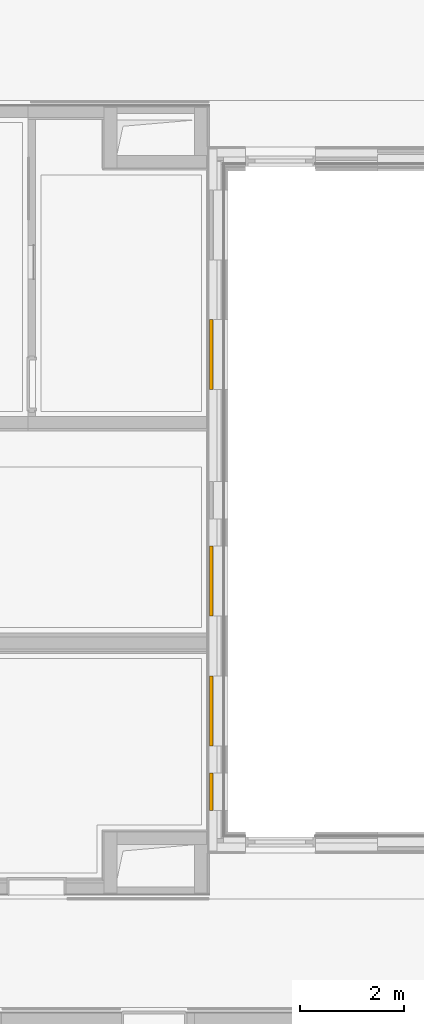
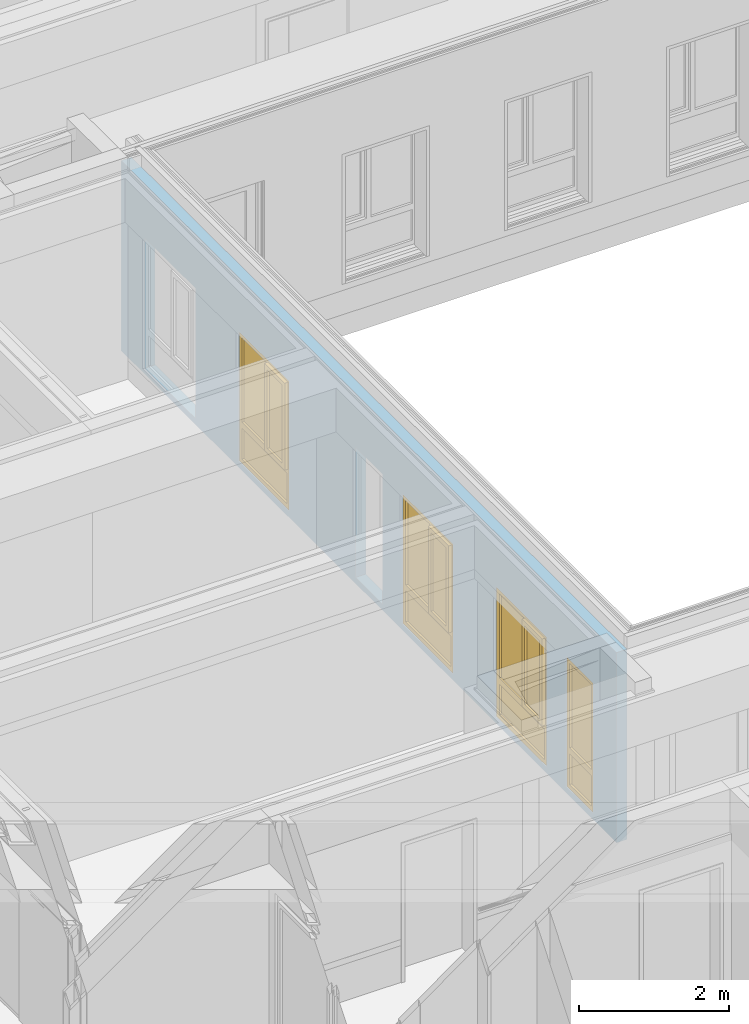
# One storey, part 129 of 207: 4 windows, 6 openings, plus 1 element that does not belong to this part.
"""IFC4 building model written with IfcOpenShell, lengths in metres."""

from ifc_helpers import new_model, entity, si_unit, converted_unit, derived_unit, frame, frame_2d, origin, origin_with_axes, place, context, subcontext, project, spatial, polyline, rectangle, outline, extrude, closed_shell, open_shell, surface_model, source, transform, mapped, material, element, fill, save


model = new_model("IFC4")

# Units and contexts
model_context = context("Model", 3, precision=1e-05, world=origin())
body_context = subcontext(model_context, "Body", "Model", "MODEL_VIEW")
ifc_project = project(units=[si_unit("LENGTHUNIT", "METRE"), si_unit("AREAUNIT", "SQUARE_METRE"), si_unit("VOLUMEUNIT", "CUBIC_METRE"), si_unit("MASSUNIT", "GRAM", prefix="KILO"), converted_unit("PLANEANGLEUNIT", "DEGREE", entity("IfcPlaneAngleMeasure", 0.0174532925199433), si_unit("PLANEANGLEUNIT", "RADIAN"), dimensions=[0, 0, 0, 0, 0, 0, 0]), derived_unit("THERMALTRANSMITTANCEUNIT", [(si_unit("POWERUNIT", "WATT"), 1), (si_unit("THERMODYNAMICTEMPERATUREUNIT", "KELVIN"), -1), (si_unit("LENGTHUNIT", "METRE"), -2)]), derived_unit("VOLUMETRICFLOWRATEUNIT", [(si_unit("LENGTHUNIT", "METRE"), 3), (converted_unit("TIMEUNIT", "hour", entity("IfcTimeMeasure", 3600.0), si_unit("TIMEUNIT", "SECOND"), dimensions=[0, 0, 1, 0, 0, 0, 0]), -1), (si_unit("LENGTHUNIT", "METRE"), -1)])], contexts=[model_context])

# Site, building, storey
site_placement = place(None, origin())
site = spatial("IfcSite", under=ifc_project, at=site_placement, Name="Psychiatrie Neubau Wunstorf", CompositionType="ELEMENT")
building_placement = place(site_placement, origin())
building = spatial("IfcBuilding", under=site, at=building_placement, Name="Neubau H2 Stationsgebäude", CompositionType="ELEMENT")
storey_placement = place(building_placement, frame((0.0, 0.0, -0.2)))
storey = spatial("IfcBuildingStorey", under=building, at=storey_placement, Name="H2 Ebene 0", CompositionType="ELEMENT", Elevation=-0.2)

# Wall, openings, windows
ifc_material = material(Name="WA-HD")
wall_placement = place(storey_placement, frame((79.175, 21.84, 0.5), z_axis=(0.0, 0.0, 1.0), x_axis=(0.0, -1.0, 0.0)))
wall = element("IfcWall", 1, at=wall_placement, inside=storey, material=ifc_material, context=body_context, shape_type="SweptSolid", body=[
    extrude(rectangle(XDim=13.23, YDim=0.16, at=frame_2d((6.615, 0.08), x_axis=(1.0, 0.0))), origin_with_axes(), (0.0, 0.0, 1.0), 3.1),
])
opening_1_placement = place(wall_placement, frame((12.6049999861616, 0.16, 0.1), z_axis=(0.0, -1.0, 0.0), x_axis=(0.0, 0.0, 1.0)))
opening_1 = element("IfcOpeningElement", 2, at=opening_1_placement, cuts=wall, Name="Fensteröffnung", ObjectType="Opening", context=body_context, shape_type="SweptSolid", body=[
    extrude(outline(polyline([(2.12, 0.725), (2.12, 0.0), (0.0, 0.0), (0.0, 0.725), (2.12, 0.725)])), origin_with_axes(), (0.0, 0.0, 1.0), 0.16),
])
opening_2_placement = place(wall_placement, frame((11.3565865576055, 0.16, 0.1), z_axis=(0.0, -1.0, 0.0), x_axis=(0.0, 0.0, 1.0)))
opening_2 = element("IfcOpeningElement", 3, at=opening_2_placement, cuts=wall, Name="Fensteröffnung", ObjectType="Opening", context=body_context, shape_type="SweptSolid", body=[
    extrude(outline(polyline([(2.12, 1.35), (2.12, 0.0), (0.0, 0.0), (0.0, 1.35), (2.12, 1.35)])), origin_with_axes(), (0.0, 0.0, 1.0), 0.16),
])
opening_3_placement = place(wall_placement, frame((8.85664410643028, 0.16, 0.1), z_axis=(0.0, -1.0, 0.0), x_axis=(0.0, 0.0, 1.0)))
opening_3 = element("IfcOpeningElement", 4, at=opening_3_placement, cuts=wall, Name="Fensteröffnung", ObjectType="Opening", context=body_context, shape_type="SweptSolid", body=[
    extrude(outline(polyline([(2.12, 1.35), (2.12, 0.0), (0.0, 0.0), (0.0, 1.35), (2.12, 1.35)])), origin_with_axes(), (0.0, 0.0, 1.0), 0.16),
])
opening_4_placement = place(wall_placement, frame((4.48200463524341, 0.160000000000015, 0.1), z_axis=(0.0, -1.0, 0.0), x_axis=(0.0, 0.0, 1.0)))
opening_4 = element("IfcOpeningElement", 5, at=opening_4_placement, cuts=wall, Name="Fensteröffnung", ObjectType="Opening", context=body_context, shape_type="SweptSolid", body=[
    extrude(outline(polyline([(2.12, 1.35), (2.12, 0.0), (0.0, 0.0), (0.0, 1.35), (2.12, 1.35)])), origin_with_axes(), (0.0, 0.0, 1.0), 0.16),
])
opening_5_placement = place(wall_placement, frame((1.98244477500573, 0.16, 0.1), z_axis=(0.0, -1.0, 0.0), x_axis=(0.0, 0.0, 1.0)))
element("IfcOpeningElement", 6, at=opening_5_placement, cuts=wall, Name="Fensteröffnung", ObjectType="Opening", context=body_context, shape_type="SweptSolid", body=[
    extrude(outline(polyline([(2.12, 1.35), (2.12, 0.0), (0.0, 0.0), (0.0, 1.35), (2.12, 1.35)])), origin_with_axes(), (0.0, 0.0, 1.0), 0.16),
])
opening_6_placement = place(wall_placement, frame((6.98238722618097, 0.16, 0.1), z_axis=(0.0, -1.0, 0.0), x_axis=(0.0, 0.0, 1.0)))
element("IfcOpeningElement", 7, at=opening_6_placement, cuts=wall, Name="Fensteröffnung", ObjectType="Opening", context=body_context, shape_type="SweptSolid", body=[
    extrude(outline(polyline([(2.12, 0.725), (2.12, 0.0), (0.0, 0.0), (0.0, 0.725), (2.12, 0.725)])), origin_with_axes(), (0.0, 0.0, 1.0), 0.16),
])
shared_shape_1 = source(origin_with_axes(), body_context, "Body", "SurfaceModel", [
    surface_model("IfcShellBasedSurfaceModel", [(0.0, 0.0, 2.12), (0.0699999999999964, 0.0, 2.12), (0.0699999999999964, 0.0, 0.0), (0.0, 0.0, 0.0), (0.0, 0.0700000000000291, 0.0), (0.0699999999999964, 0.0700000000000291, 0.0), (0.0699999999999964, 0.0700000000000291, 2.12), (0.0, 0.0700000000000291, 2.12)], [closed_shell([[[0, 1, 2, 3]], [[4, 5, 6, 7]], [[3, 4, 7, 0]], [[2, 5, 4, 3]], [[1, 6, 5, 2]], [[0, 7, 6, 1]]], orient=[[False], [False], [False], [False], [False], [False]])]),
    surface_model("IfcShellBasedSurfaceModel", [(0.654999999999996, 0.0, 2.12), (0.724999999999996, 0.0, 2.12), (0.724999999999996, 0.0, 0.0), (0.654999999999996, 0.0, 0.0), (0.654999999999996, 0.0700000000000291, 0.0), (0.724999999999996, 0.0700000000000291, 0.0), (0.724999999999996, 0.0700000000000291, 2.12), (0.654999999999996, 0.0700000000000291, 2.12)], [closed_shell([[[0, 1, 2, 3]], [[4, 5, 6, 7]], [[3, 4, 7, 0]], [[2, 5, 4, 3]], [[1, 6, 5, 2]], [[0, 7, 6, 1]]], orient=[[False], [False], [False], [False], [False], [False]])]),
    surface_model("IfcShellBasedSurfaceModel", [(0.0699999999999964, 0.0, 0.07), (0.654999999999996, 0.0, 0.07), (0.654999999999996, 0.0, 0.0), (0.0699999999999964, 0.0, 0.0), (0.0699999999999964, 0.0700000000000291, 0.0), (0.654999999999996, 0.0700000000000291, 0.0), (0.654999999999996, 0.0700000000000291, 0.07), (0.0699999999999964, 0.0700000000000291, 0.07)], [closed_shell([[[0, 1, 2, 3]], [[4, 5, 6, 7]], [[3, 4, 7, 0]], [[2, 5, 4, 3]], [[1, 6, 5, 2]], [[0, 7, 6, 1]]], orient=[[False], [False], [False], [False], [False], [False]])]),
    surface_model("IfcShellBasedSurfaceModel", [(0.0699999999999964, 0.0, 2.12), (0.654999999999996, 0.0, 2.12), (0.654999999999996, 0.0, 2.05), (0.0699999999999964, 0.0, 2.05), (0.0699999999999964, 0.0700000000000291, 2.05), (0.654999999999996, 0.0700000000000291, 2.05), (0.654999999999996, 0.0700000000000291, 2.12), (0.0699999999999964, 0.0700000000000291, 2.12)], [closed_shell([[[0, 1, 2, 3]], [[4, 5, 6, 7]], [[3, 4, 7, 0]], [[2, 5, 4, 3]], [[1, 6, 5, 2]], [[0, 7, 6, 1]]], orient=[[False], [False], [False], [False], [False], [False]])]),
    surface_model("IfcShellBasedSurfaceModel", [(0.0699999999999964, 0.0, 0.67), (0.654999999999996, 0.0, 0.67), (0.654999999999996, 0.0, 0.57), (0.0699999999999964, 0.0, 0.57), (0.0699999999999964, 0.0700000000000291, 0.57), (0.654999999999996, 0.0700000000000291, 0.57), (0.654999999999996, 0.0700000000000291, 0.67), (0.0699999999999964, 0.0700000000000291, 0.67)], [closed_shell([[[0, 1, 2, 3]], [[4, 5, 6, 7]], [[3, 4, 7, 0]], [[2, 5, 4, 3]], [[1, 6, 5, 2]], [[0, 7, 6, 1]]], orient=[[False], [False], [False], [False], [False], [False]])]),
    surface_model("IfcShellBasedSurfaceModel", [(0.0699999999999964, 0.0350000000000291, 0.07), (0.0699999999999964, 0.0350000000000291, 0.57), (0.654999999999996, 0.0350000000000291, 0.57), (0.654999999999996, 0.0350000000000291, 0.07)], [open_shell([[[0, 1, 2, 3]]], orient=[[False]])]),
    surface_model("IfcShellBasedSurfaceModel", [(0.0699999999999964, 0.0350000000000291, 0.67), (0.0699999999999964, 0.0350000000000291, 2.05), (0.654999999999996, 0.0350000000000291, 2.05), (0.654999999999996, 0.0350000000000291, 0.67)], [open_shell([[[0, 1, 2, 3]]], orient=[[False]])]),
])
window_1_placement = place(opening_1_placement, frame((0.0, 0.0, 0.076), z_axis=(1.0, 0.0, 0.0), x_axis=(0.0, 1.0, 0.0)))
window_1 = element("IfcWindow", 8, at=window_1_placement, inside=storey, Name="Fenster", OverallHeight=2.12, OverallWidth=0.725, PartitioningType="USERDEFINED", PredefinedType="WINDOW", context=body_context, shape_type="MappedRepresentation", body=[
    mapped(shared_shape_1, transform((0.0, 0.0, 0.0), x_axis=(1.0, 0.0, 0.0), y_axis=(0.0, 1.0, 0.0), z_axis=(0.0, 0.0, 1.0), scale=1.0)),
])
fill(opening_1, window_1)
shared_shape_2 = source(origin_with_axes(), body_context, "Body", "SurfaceModel", [
    surface_model("IfcShellBasedSurfaceModel", [(1.35, 0.0, 2.12), (1.35, 0.0, 0.0), (1.28, 0.0, 0.0), (1.28, 0.0, 2.12), (1.35, 0.0699999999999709, 0.0), (1.35, 0.0699999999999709, 2.12), (1.28, 0.0699999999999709, 2.12), (1.28, 0.0699999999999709, 0.0)], [closed_shell([[[0, 1, 2, 3]], [[4, 5, 6, 7]], [[1, 0, 5, 4]], [[2, 1, 4, 7]], [[3, 2, 7, 6]], [[0, 3, 6, 5]]], orient=[[False], [False], [False], [False], [False], [False]])]),
    surface_model("IfcShellBasedSurfaceModel", [(0.0700000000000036, 0.0, 2.12), (0.0700000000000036, 0.0, 0.0), (0.0, 0.0, 0.0), (0.0, 0.0, 2.12), (0.0700000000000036, 0.0699999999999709, 0.0), (0.0700000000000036, 0.0699999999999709, 2.12), (0.0, 0.0699999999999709, 2.12), (0.0, 0.0699999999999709, 0.0)], [closed_shell([[[0, 1, 2, 3]], [[4, 5, 6, 7]], [[1, 0, 5, 4]], [[2, 1, 4, 7]], [[3, 2, 7, 6]], [[0, 3, 6, 5]]], orient=[[False], [False], [False], [False], [False], [False]])]),
    surface_model("IfcShellBasedSurfaceModel", [(1.28, 0.0, 0.07), (1.28, 0.0, 0.0), (0.0700000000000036, 0.0, 0.0), (0.0700000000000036, 0.0, 0.07), (1.28, 0.0699999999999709, 0.0), (1.28, 0.0699999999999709, 0.07), (0.0700000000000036, 0.0699999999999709, 0.07), (0.0700000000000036, 0.0699999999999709, 0.0)], [closed_shell([[[0, 1, 2, 3]], [[4, 5, 6, 7]], [[1, 0, 5, 4]], [[2, 1, 4, 7]], [[3, 2, 7, 6]], [[0, 3, 6, 5]]], orient=[[False], [False], [False], [False], [False], [False]])]),
    surface_model("IfcShellBasedSurfaceModel", [(1.28, 0.0, 2.12), (1.28, 0.0, 2.05), (0.0700000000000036, 0.0, 2.05), (0.0700000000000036, 0.0, 2.12), (1.28, 0.0699999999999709, 2.05), (1.28, 0.0699999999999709, 2.12), (0.0700000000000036, 0.0699999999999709, 2.12), (0.0700000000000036, 0.0699999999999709, 2.05)], [closed_shell([[[0, 1, 2, 3]], [[4, 5, 6, 7]], [[1, 0, 5, 4]], [[2, 1, 4, 7]], [[3, 2, 7, 6]], [[0, 3, 6, 5]]], orient=[[False], [False], [False], [False], [False], [False]])]),
    surface_model("IfcShellBasedSurfaceModel", [(1.28, 0.0, 0.67), (1.28, 0.0, 0.57), (0.0700000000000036, 0.0, 0.57), (0.0700000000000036, 0.0, 0.67), (1.28, 0.0699999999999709, 0.57), (1.28, 0.0699999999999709, 0.67), (0.0700000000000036, 0.0699999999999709, 0.67), (0.0700000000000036, 0.0699999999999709, 0.57)], [closed_shell([[[0, 1, 2, 3]], [[4, 5, 6, 7]], [[1, 0, 5, 4]], [[2, 1, 4, 7]], [[3, 2, 7, 6]], [[0, 3, 6, 5]]], orient=[[False], [False], [False], [False], [False], [False]])]),
    surface_model("IfcShellBasedSurfaceModel", [(1.28, 0.0349999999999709, 0.07), (0.0700000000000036, 0.0349999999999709, 0.07), (0.0700000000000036, 0.0349999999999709, 0.57), (1.28, 0.0349999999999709, 0.57)], [open_shell([[[0, 1, 2, 3]]], orient=[[False]])]),
    surface_model("IfcShellBasedSurfaceModel", [(0.780000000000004, 0.0, 2.05), (0.780000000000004, 0.0, 0.67), (0.710000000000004, 0.0, 0.67), (0.710000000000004, 0.0, 2.05), (0.780000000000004, 0.0699999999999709, 0.67), (0.780000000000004, 0.0699999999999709, 2.05), (0.710000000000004, 0.0699999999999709, 2.05), (0.710000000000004, 0.0699999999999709, 0.67)], [closed_shell([[[0, 1, 2, 3]], [[4, 5, 6, 7]], [[1, 0, 5, 4]], [[2, 1, 4, 7]], [[3, 2, 7, 6]], [[0, 3, 6, 5]]], orient=[[False], [False], [False], [False], [False], [False]])]),
    surface_model("IfcShellBasedSurfaceModel", [(1.3, -0.0500000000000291, 2.07), (1.3, -0.0500000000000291, 0.65), (1.23, -0.0500000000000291, 0.65), (1.23, -0.0500000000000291, 2.07), (1.3, 0.0199999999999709, 0.65), (1.3, 0.0199999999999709, 2.07), (1.23, 0.0199999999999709, 2.07), (1.23, 0.0199999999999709, 0.65)], [closed_shell([[[0, 1, 2, 3]], [[4, 5, 6, 7]], [[1, 0, 5, 4]], [[2, 1, 4, 7]], [[3, 2, 7, 6]], [[0, 3, 6, 5]]], orient=[[False], [False], [False], [False], [False], [False]])]),
    surface_model("IfcShellBasedSurfaceModel", [(0.830000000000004, -0.0500000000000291, 2.07), (0.830000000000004, -0.0500000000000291, 0.65), (0.760000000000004, -0.0500000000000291, 0.65), (0.760000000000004, -0.0500000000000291, 2.07), (0.830000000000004, 0.0199999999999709, 0.65), (0.830000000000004, 0.0199999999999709, 2.07), (0.760000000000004, 0.0199999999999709, 2.07), (0.760000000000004, 0.0199999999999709, 0.65)], [closed_shell([[[0, 1, 2, 3]], [[4, 5, 6, 7]], [[1, 0, 5, 4]], [[2, 1, 4, 7]], [[3, 2, 7, 6]], [[0, 3, 6, 5]]], orient=[[False], [False], [False], [False], [False], [False]])]),
    surface_model("IfcShellBasedSurfaceModel", [(1.23, -0.0500000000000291, 0.72), (1.23, -0.0500000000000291, 0.65), (0.830000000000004, -0.0500000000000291, 0.65), (0.830000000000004, -0.0500000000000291, 0.72), (1.23, 0.0199999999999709, 0.65), (1.23, 0.0199999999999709, 0.72), (0.830000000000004, 0.0199999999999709, 0.72), (0.830000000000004, 0.0199999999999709, 0.65)], [closed_shell([[[0, 1, 2, 3]], [[4, 5, 6, 7]], [[1, 0, 5, 4]], [[2, 1, 4, 7]], [[3, 2, 7, 6]], [[0, 3, 6, 5]]], orient=[[False], [False], [False], [False], [False], [False]])]),
    surface_model("IfcShellBasedSurfaceModel", [(1.23, -0.0500000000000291, 2.07), (1.23, -0.0500000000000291, 2.0), (0.830000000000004, -0.0500000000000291, 2.0), (0.830000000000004, -0.0500000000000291, 2.07), (1.23, 0.0199999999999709, 2.0), (1.23, 0.0199999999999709, 2.07), (0.830000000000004, 0.0199999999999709, 2.07), (0.830000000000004, 0.0199999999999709, 2.0)], [closed_shell([[[0, 1, 2, 3]], [[4, 5, 6, 7]], [[1, 0, 5, 4]], [[2, 1, 4, 7]], [[3, 2, 7, 6]], [[0, 3, 6, 5]]], orient=[[False], [False], [False], [False], [False], [False]])]),
    surface_model("IfcShellBasedSurfaceModel", [(0.710000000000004, 0.0349999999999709, 0.67), (0.0700000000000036, 0.0349999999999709, 0.67), (0.0700000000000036, 0.0349999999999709, 2.05), (0.710000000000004, 0.0349999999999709, 2.05)], [open_shell([[[0, 1, 2, 3]]], orient=[[False]])]),
    surface_model("IfcShellBasedSurfaceModel", [(1.23, -0.0150000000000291, 0.72), (0.830000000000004, -0.0150000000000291, 0.72), (0.830000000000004, -0.0150000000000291, 2.0), (1.23, -0.0150000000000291, 2.0)], [open_shell([[[0, 1, 2, 3]]], orient=[[False]])]),
])
window_2_placement = place(opening_2_placement, frame((0.0, 1.35, 0.146), z_axis=(1.0, 0.0, 0.0), x_axis=(0.0, -1.0, 0.0)))
window_2 = element("IfcWindow", 9, at=window_2_placement, inside=storey, Name="Fenster", OverallHeight=2.12, OverallWidth=1.35, PartitioningType="USERDEFINED", PredefinedType="WINDOW", context=body_context, shape_type="MappedRepresentation", body=[
    mapped(shared_shape_2, transform((0.0, 0.0, 0.0), x_axis=(1.0, 0.0, 0.0), y_axis=(0.0, 1.0, 0.0), z_axis=(0.0, 0.0, 1.0), scale=1.0)),
])
fill(opening_2, window_2)
shared_shape_3 = source(origin_with_axes(), body_context, "Body", "SurfaceModel", [
    surface_model("IfcShellBasedSurfaceModel", [(1.35, 0.0, 2.12), (1.35, 0.0, 0.0), (1.28, 0.0, 0.0), (1.28, 0.0, 2.12), (1.35, 0.0699999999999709, 0.0), (1.35, 0.0699999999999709, 2.12), (1.28, 0.0699999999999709, 2.12), (1.28, 0.0699999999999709, 0.0)], [closed_shell([[[0, 1, 2, 3]], [[4, 5, 6, 7]], [[1, 0, 5, 4]], [[2, 1, 4, 7]], [[3, 2, 7, 6]], [[0, 3, 6, 5]]], orient=[[False], [False], [False], [False], [False], [False]])]),
    surface_model("IfcShellBasedSurfaceModel", [(0.0700000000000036, 0.0, 2.12), (0.0700000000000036, 0.0, 0.0), (0.0, 0.0, 0.0), (0.0, 0.0, 2.12), (0.0700000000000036, 0.0699999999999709, 0.0), (0.0700000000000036, 0.0699999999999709, 2.12), (0.0, 0.0699999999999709, 2.12), (0.0, 0.0699999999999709, 0.0)], [closed_shell([[[0, 1, 2, 3]], [[4, 5, 6, 7]], [[1, 0, 5, 4]], [[2, 1, 4, 7]], [[3, 2, 7, 6]], [[0, 3, 6, 5]]], orient=[[False], [False], [False], [False], [False], [False]])]),
    surface_model("IfcShellBasedSurfaceModel", [(1.28, 0.0, 0.07), (1.28, 0.0, 0.0), (0.0700000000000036, 0.0, 0.0), (0.0700000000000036, 0.0, 0.07), (1.28, 0.0699999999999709, 0.0), (1.28, 0.0699999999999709, 0.07), (0.0700000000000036, 0.0699999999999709, 0.07), (0.0700000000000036, 0.0699999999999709, 0.0)], [closed_shell([[[0, 1, 2, 3]], [[4, 5, 6, 7]], [[1, 0, 5, 4]], [[2, 1, 4, 7]], [[3, 2, 7, 6]], [[0, 3, 6, 5]]], orient=[[False], [False], [False], [False], [False], [False]])]),
    surface_model("IfcShellBasedSurfaceModel", [(1.28, 0.0, 2.12), (1.28, 0.0, 2.05), (0.0700000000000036, 0.0, 2.05), (0.0700000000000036, 0.0, 2.12), (1.28, 0.0699999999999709, 2.05), (1.28, 0.0699999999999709, 2.12), (0.0700000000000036, 0.0699999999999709, 2.12), (0.0700000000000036, 0.0699999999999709, 2.05)], [closed_shell([[[0, 1, 2, 3]], [[4, 5, 6, 7]], [[1, 0, 5, 4]], [[2, 1, 4, 7]], [[3, 2, 7, 6]], [[0, 3, 6, 5]]], orient=[[False], [False], [False], [False], [False], [False]])]),
    surface_model("IfcShellBasedSurfaceModel", [(1.28, 0.0, 0.67), (1.28, 0.0, 0.57), (0.0700000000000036, 0.0, 0.57), (0.0700000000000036, 0.0, 0.67), (1.28, 0.0699999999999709, 0.57), (1.28, 0.0699999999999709, 0.67), (0.0700000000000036, 0.0699999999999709, 0.67), (0.0700000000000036, 0.0699999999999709, 0.57)], [closed_shell([[[0, 1, 2, 3]], [[4, 5, 6, 7]], [[1, 0, 5, 4]], [[2, 1, 4, 7]], [[3, 2, 7, 6]], [[0, 3, 6, 5]]], orient=[[False], [False], [False], [False], [False], [False]])]),
    surface_model("IfcShellBasedSurfaceModel", [(1.28, 0.0349999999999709, 0.07), (0.0700000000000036, 0.0349999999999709, 0.07), (0.0700000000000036, 0.0349999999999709, 0.57), (1.28, 0.0349999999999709, 0.57)], [open_shell([[[0, 1, 2, 3]]], orient=[[False]])]),
    surface_model("IfcShellBasedSurfaceModel", [(0.780000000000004, 0.0, 2.05), (0.780000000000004, 0.0, 0.67), (0.710000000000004, 0.0, 0.67), (0.710000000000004, 0.0, 2.05), (0.780000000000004, 0.0699999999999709, 0.67), (0.780000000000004, 0.0699999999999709, 2.05), (0.710000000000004, 0.0699999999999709, 2.05), (0.710000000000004, 0.0699999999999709, 0.67)], [closed_shell([[[0, 1, 2, 3]], [[4, 5, 6, 7]], [[1, 0, 5, 4]], [[2, 1, 4, 7]], [[3, 2, 7, 6]], [[0, 3, 6, 5]]], orient=[[False], [False], [False], [False], [False], [False]])]),
    surface_model("IfcShellBasedSurfaceModel", [(1.3, -0.0500000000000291, 2.07), (1.3, -0.0500000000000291, 0.65), (1.23, -0.0500000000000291, 0.65), (1.23, -0.0500000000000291, 2.07), (1.3, 0.0199999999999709, 0.65), (1.3, 0.0199999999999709, 2.07), (1.23, 0.0199999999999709, 2.07), (1.23, 0.0199999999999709, 0.65)], [closed_shell([[[0, 1, 2, 3]], [[4, 5, 6, 7]], [[1, 0, 5, 4]], [[2, 1, 4, 7]], [[3, 2, 7, 6]], [[0, 3, 6, 5]]], orient=[[False], [False], [False], [False], [False], [False]])]),
    surface_model("IfcShellBasedSurfaceModel", [(0.830000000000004, -0.0500000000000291, 2.07), (0.830000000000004, -0.0500000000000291, 0.65), (0.760000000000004, -0.0500000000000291, 0.65), (0.760000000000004, -0.0500000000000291, 2.07), (0.830000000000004, 0.0199999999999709, 0.65), (0.830000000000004, 0.0199999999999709, 2.07), (0.760000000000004, 0.0199999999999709, 2.07), (0.760000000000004, 0.0199999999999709, 0.65)], [closed_shell([[[0, 1, 2, 3]], [[4, 5, 6, 7]], [[1, 0, 5, 4]], [[2, 1, 4, 7]], [[3, 2, 7, 6]], [[0, 3, 6, 5]]], orient=[[False], [False], [False], [False], [False], [False]])]),
    surface_model("IfcShellBasedSurfaceModel", [(1.23, -0.0500000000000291, 0.72), (1.23, -0.0500000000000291, 0.65), (0.830000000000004, -0.0500000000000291, 0.65), (0.830000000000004, -0.0500000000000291, 0.72), (1.23, 0.0199999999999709, 0.65), (1.23, 0.0199999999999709, 0.72), (0.830000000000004, 0.0199999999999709, 0.72), (0.830000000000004, 0.0199999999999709, 0.65)], [closed_shell([[[0, 1, 2, 3]], [[4, 5, 6, 7]], [[1, 0, 5, 4]], [[2, 1, 4, 7]], [[3, 2, 7, 6]], [[0, 3, 6, 5]]], orient=[[False], [False], [False], [False], [False], [False]])]),
    surface_model("IfcShellBasedSurfaceModel", [(1.23, -0.0500000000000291, 2.07), (1.23, -0.0500000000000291, 2.0), (0.830000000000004, -0.0500000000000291, 2.0), (0.830000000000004, -0.0500000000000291, 2.07), (1.23, 0.0199999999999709, 2.0), (1.23, 0.0199999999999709, 2.07), (0.830000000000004, 0.0199999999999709, 2.07), (0.830000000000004, 0.0199999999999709, 2.0)], [closed_shell([[[0, 1, 2, 3]], [[4, 5, 6, 7]], [[1, 0, 5, 4]], [[2, 1, 4, 7]], [[3, 2, 7, 6]], [[0, 3, 6, 5]]], orient=[[False], [False], [False], [False], [False], [False]])]),
    surface_model("IfcShellBasedSurfaceModel", [(0.710000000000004, 0.0349999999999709, 0.67), (0.0700000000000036, 0.0349999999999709, 0.67), (0.0700000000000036, 0.0349999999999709, 2.05), (0.710000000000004, 0.0349999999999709, 2.05)], [open_shell([[[0, 1, 2, 3]]], orient=[[False]])]),
    surface_model("IfcShellBasedSurfaceModel", [(1.23, -0.0150000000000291, 0.72), (0.830000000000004, -0.0150000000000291, 0.72), (0.830000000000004, -0.0150000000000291, 2.0), (1.23, -0.0150000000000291, 2.0)], [open_shell([[[0, 1, 2, 3]]], orient=[[False]])]),
])
window_3_placement = place(opening_3_placement, frame((0.0, 1.35, 0.146), z_axis=(1.0, 0.0, 0.0), x_axis=(0.0, -1.0, 0.0)))
window_3 = element("IfcWindow", 10, at=window_3_placement, inside=storey, Name="Fenster", OverallHeight=2.12, OverallWidth=1.35, PartitioningType="USERDEFINED", PredefinedType="WINDOW", context=body_context, shape_type="MappedRepresentation", body=[
    mapped(shared_shape_3, transform((0.0, 0.0, 0.0), x_axis=(1.0, 0.0, 0.0), y_axis=(0.0, 1.0, 0.0), z_axis=(0.0, 0.0, 1.0), scale=1.0)),
])
fill(opening_3, window_3)
shared_shape_4 = source(origin_with_axes(), body_context, "Body", "SurfaceModel", [
    surface_model("IfcShellBasedSurfaceModel", [(1.35000000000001, 0.0, 2.12), (1.35000000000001, 0.0, 0.0), (1.28000000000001, 0.0, 0.0), (1.28000000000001, 0.0, 2.12), (1.35000000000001, 0.0699999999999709, 0.0), (1.35000000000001, 0.0699999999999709, 2.12), (1.28000000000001, 0.0699999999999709, 2.12), (1.28000000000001, 0.0699999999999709, 0.0)], [closed_shell([[[0, 1, 2, 3]], [[4, 5, 6, 7]], [[1, 0, 5, 4]], [[2, 1, 4, 7]], [[3, 2, 7, 6]], [[0, 3, 6, 5]]], orient=[[False], [False], [False], [False], [False], [False]])]),
    surface_model("IfcShellBasedSurfaceModel", [(0.0700000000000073, 0.0, 2.12), (0.0700000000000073, 0.0, 0.0), (0.0, 0.0, 0.0), (0.0, 0.0, 2.12), (0.0700000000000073, 0.0699999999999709, 0.0), (0.0700000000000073, 0.0699999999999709, 2.12), (0.0, 0.0699999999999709, 2.12), (0.0, 0.0699999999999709, 0.0)], [closed_shell([[[0, 1, 2, 3]], [[4, 5, 6, 7]], [[1, 0, 5, 4]], [[2, 1, 4, 7]], [[3, 2, 7, 6]], [[0, 3, 6, 5]]], orient=[[False], [False], [False], [False], [False], [False]])]),
    surface_model("IfcShellBasedSurfaceModel", [(1.28000000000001, 0.0, 0.07), (1.28000000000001, 0.0, 0.0), (0.0700000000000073, 0.0, 0.0), (0.0700000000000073, 0.0, 0.07), (1.28000000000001, 0.0699999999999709, 0.0), (1.28000000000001, 0.0699999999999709, 0.07), (0.0700000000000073, 0.0699999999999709, 0.07), (0.0700000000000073, 0.0699999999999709, 0.0)], [closed_shell([[[0, 1, 2, 3]], [[4, 5, 6, 7]], [[1, 0, 5, 4]], [[2, 1, 4, 7]], [[3, 2, 7, 6]], [[0, 3, 6, 5]]], orient=[[False], [False], [False], [False], [False], [False]])]),
    surface_model("IfcShellBasedSurfaceModel", [(1.28000000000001, 0.0, 2.12), (1.28000000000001, 0.0, 2.05), (0.0700000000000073, 0.0, 2.05), (0.0700000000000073, 0.0, 2.12), (1.28000000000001, 0.0699999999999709, 2.05), (1.28000000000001, 0.0699999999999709, 2.12), (0.0700000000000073, 0.0699999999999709, 2.12), (0.0700000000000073, 0.0699999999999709, 2.05)], [closed_shell([[[0, 1, 2, 3]], [[4, 5, 6, 7]], [[1, 0, 5, 4]], [[2, 1, 4, 7]], [[3, 2, 7, 6]], [[0, 3, 6, 5]]], orient=[[False], [False], [False], [False], [False], [False]])]),
    surface_model("IfcShellBasedSurfaceModel", [(1.28000000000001, 0.0, 0.67), (1.28000000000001, 0.0, 0.57), (0.0700000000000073, 0.0, 0.57), (0.0700000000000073, 0.0, 0.67), (1.28000000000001, 0.0699999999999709, 0.57), (1.28000000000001, 0.0699999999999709, 0.67), (0.0700000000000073, 0.0699999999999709, 0.67), (0.0700000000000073, 0.0699999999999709, 0.57)], [closed_shell([[[0, 1, 2, 3]], [[4, 5, 6, 7]], [[1, 0, 5, 4]], [[2, 1, 4, 7]], [[3, 2, 7, 6]], [[0, 3, 6, 5]]], orient=[[False], [False], [False], [False], [False], [False]])]),
    surface_model("IfcShellBasedSurfaceModel", [(1.28000000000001, 0.0349999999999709, 0.07), (0.0700000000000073, 0.0349999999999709, 0.07), (0.0700000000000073, 0.0349999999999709, 0.57), (1.28000000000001, 0.0349999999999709, 0.57)], [open_shell([[[0, 1, 2, 3]]], orient=[[False]])]),
    surface_model("IfcShellBasedSurfaceModel", [(0.780000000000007, 0.0, 2.05), (0.780000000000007, 0.0, 0.67), (0.710000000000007, 0.0, 0.67), (0.710000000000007, 0.0, 2.05), (0.780000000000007, 0.0699999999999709, 0.67), (0.780000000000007, 0.0699999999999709, 2.05), (0.710000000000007, 0.0699999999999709, 2.05), (0.710000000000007, 0.0699999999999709, 0.67)], [closed_shell([[[0, 1, 2, 3]], [[4, 5, 6, 7]], [[1, 0, 5, 4]], [[2, 1, 4, 7]], [[3, 2, 7, 6]], [[0, 3, 6, 5]]], orient=[[False], [False], [False], [False], [False], [False]])]),
    surface_model("IfcShellBasedSurfaceModel", [(1.30000000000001, -0.0500000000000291, 2.07), (1.30000000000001, -0.0500000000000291, 0.65), (1.23000000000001, -0.0500000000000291, 0.65), (1.23000000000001, -0.0500000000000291, 2.07), (1.30000000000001, 0.0199999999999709, 0.65), (1.30000000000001, 0.0199999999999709, 2.07), (1.23000000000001, 0.0199999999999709, 2.07), (1.23000000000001, 0.0199999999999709, 0.65)], [closed_shell([[[0, 1, 2, 3]], [[4, 5, 6, 7]], [[1, 0, 5, 4]], [[2, 1, 4, 7]], [[3, 2, 7, 6]], [[0, 3, 6, 5]]], orient=[[False], [False], [False], [False], [False], [False]])]),
    surface_model("IfcShellBasedSurfaceModel", [(0.830000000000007, -0.0500000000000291, 2.07), (0.830000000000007, -0.0500000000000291, 0.65), (0.760000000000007, -0.0500000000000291, 0.65), (0.760000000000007, -0.0500000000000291, 2.07), (0.830000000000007, 0.0199999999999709, 0.65), (0.830000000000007, 0.0199999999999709, 2.07), (0.760000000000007, 0.0199999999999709, 2.07), (0.760000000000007, 0.0199999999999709, 0.65)], [closed_shell([[[0, 1, 2, 3]], [[4, 5, 6, 7]], [[1, 0, 5, 4]], [[2, 1, 4, 7]], [[3, 2, 7, 6]], [[0, 3, 6, 5]]], orient=[[False], [False], [False], [False], [False], [False]])]),
    surface_model("IfcShellBasedSurfaceModel", [(1.23000000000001, -0.0500000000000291, 0.72), (1.23000000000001, -0.0500000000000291, 0.65), (0.830000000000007, -0.0500000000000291, 0.65), (0.830000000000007, -0.0500000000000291, 0.72), (1.23000000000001, 0.0199999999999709, 0.65), (1.23000000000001, 0.0199999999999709, 0.72), (0.830000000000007, 0.0199999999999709, 0.72), (0.830000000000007, 0.0199999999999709, 0.65)], [closed_shell([[[0, 1, 2, 3]], [[4, 5, 6, 7]], [[1, 0, 5, 4]], [[2, 1, 4, 7]], [[3, 2, 7, 6]], [[0, 3, 6, 5]]], orient=[[False], [False], [False], [False], [False], [False]])]),
    surface_model("IfcShellBasedSurfaceModel", [(1.23000000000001, -0.0500000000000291, 2.07), (1.23000000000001, -0.0500000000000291, 2.0), (0.830000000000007, -0.0500000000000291, 2.0), (0.830000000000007, -0.0500000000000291, 2.07), (1.23000000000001, 0.0199999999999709, 2.0), (1.23000000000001, 0.0199999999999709, 2.07), (0.830000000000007, 0.0199999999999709, 2.07), (0.830000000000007, 0.0199999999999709, 2.0)], [closed_shell([[[0, 1, 2, 3]], [[4, 5, 6, 7]], [[1, 0, 5, 4]], [[2, 1, 4, 7]], [[3, 2, 7, 6]], [[0, 3, 6, 5]]], orient=[[False], [False], [False], [False], [False], [False]])]),
    surface_model("IfcShellBasedSurfaceModel", [(0.710000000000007, 0.0349999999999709, 0.67), (0.0700000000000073, 0.0349999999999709, 0.67), (0.0700000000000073, 0.0349999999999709, 2.05), (0.710000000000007, 0.0349999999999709, 2.05)], [open_shell([[[0, 1, 2, 3]]], orient=[[False]])]),
    surface_model("IfcShellBasedSurfaceModel", [(1.23000000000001, -0.0150000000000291, 0.72), (0.830000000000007, -0.0150000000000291, 0.72), (0.830000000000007, -0.0150000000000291, 2.0), (1.23000000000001, -0.0150000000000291, 2.0)], [open_shell([[[0, 1, 2, 3]]], orient=[[False]])]),
])
window_4_placement = place(opening_4_placement, frame((0.0, 1.35, 0.146), z_axis=(1.0, 0.0, 0.0), x_axis=(0.0, -1.0, 0.0)))
window_4 = element("IfcWindow", 11, at=window_4_placement, inside=storey, Name="Fenster", OverallHeight=2.12, OverallWidth=1.35, PartitioningType="USERDEFINED", PredefinedType="WINDOW", context=body_context, shape_type="MappedRepresentation", body=[
    mapped(shared_shape_4, transform((0.0, 0.0, 0.0), x_axis=(1.0, 0.0, 0.0), y_axis=(0.0, 1.0, 0.0), z_axis=(0.0, 0.0, 1.0), scale=1.0)),
])
fill(opening_4, window_4)

save(model, "model.ifc")
